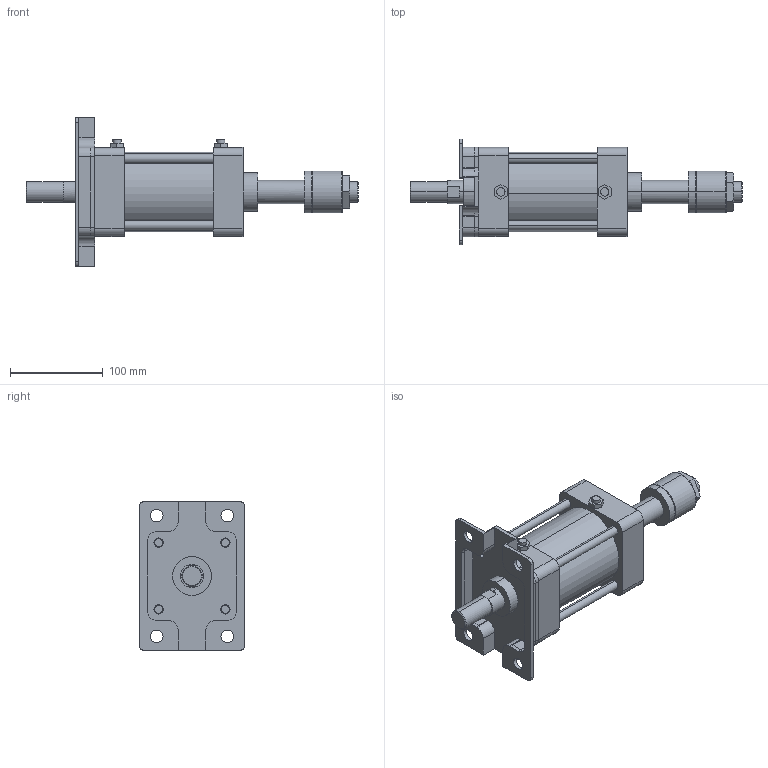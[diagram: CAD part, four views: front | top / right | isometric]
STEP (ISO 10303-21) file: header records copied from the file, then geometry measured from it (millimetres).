
FILE_DESCRIPTION (( 'STEP AP203' ), '1' );
FILE_NAME ('KGA7-80#-50-A.STEP', '2016-04-14T07:53:11', ( '' ), ( '' ), 'SwSTEP 2.0', 'SolidWorks 2014', '' );
FILE_SCHEMA (( 'CONFIG_CONTROL_DESIGN' ));
Length unit declared in the file: millimetre
Products named in the file (9): KGA7-80#-50-A; K#7-80-50-After; KGA7-80-Turn; KGLH2-80-50; K-80-AB
Assembly tree (18 placements, depth 2):
  KGA7-80#-50-A
    K#7-80-50-After
    KGLH2-80-50
    (unnamed)
    (unnamed)  x4
    (unnamed)  x8
    K-80-AB
    KGA7-80-Turn
    (unnamed)
Bounding box: 358 x 114 x 160 mm (x, y, z)
Volume: 1238941.4 mm3; surface area: 244928.1 mm2
Topology: 18 solids, 18 shells, 429 faces, 1038 edges, 664 vertices
Faces by surface type: plane 183, cylinder 172, torus 46, cone 28
Entity records: 11727 total; most frequent: CARTESIAN_POINT 2102, DIRECTION 1846, ORIENTED_EDGE 1696, EDGE_CURVE 848, AXIS2_PLACEMENT_3D 690, VERTEX_POINT 554, LINE 466, VECTOR 466
